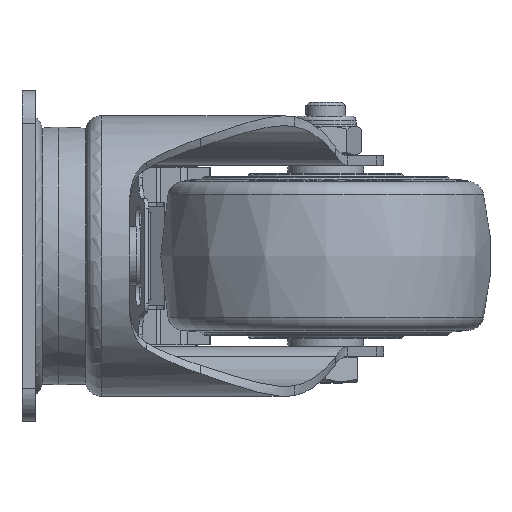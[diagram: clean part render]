
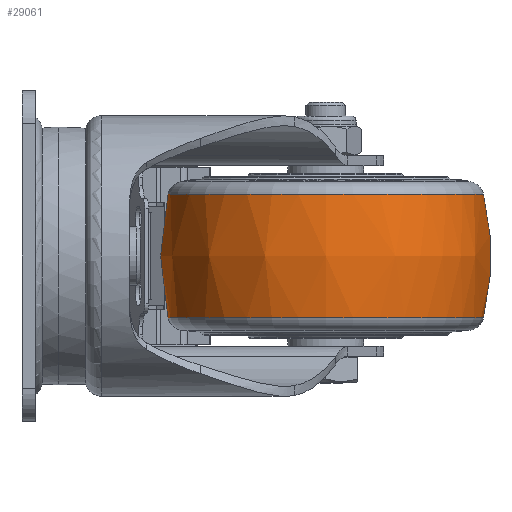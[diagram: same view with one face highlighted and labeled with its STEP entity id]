
A CAD part, left-side view. The second image highlights one B-rep face of the part: STEP entity #29061.
In plain terms, the highlighted free-form (B-spline) face has degree [2, 2] with [3, 9] control points.
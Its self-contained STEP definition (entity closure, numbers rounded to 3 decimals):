
#34=(
BOUNDED_SURFACE()
B_SPLINE_SURFACE(2,2,((#57518,#57519,#57520,#57521,#57522,#57523,#57524,
#57525,#57526),(#57527,#57528,#57529,#57530,#57531,#57532,#57533,#57534,
#57535),(#57536,#57537,#57538,#57539,#57540,#57541,#57542,#57543,#57544)),
 .UNSPECIFIED.,.F.,.T.,.F.)
B_SPLINE_SURFACE_WITH_KNOTS((3,3),(3,2,2,2,3),(-0.236,0.236),
(-3.142,-1.571,0.,1.571,3.142),
 .UNSPECIFIED.)
GEOMETRIC_REPRESENTATION_ITEM()
RATIONAL_B_SPLINE_SURFACE(((1.,0.707,1.,0.707,1.,
0.707,1.,0.707,1.),(0.972,0.687,
0.972,0.687,0.972,0.687,
0.972,0.687,0.972),(1.,0.707,
1.,0.707,1.,0.707,1.,0.707,1.)))
REPRESENTATION_ITEM('')
SURFACE()
);
#7672=FACE_OUTER_BOUND('',#9425,.T.);
#9425=EDGE_LOOP('',(#26912,#26913,#26914,#26915));
#10165=CIRCLE('',#30973,47.779);
#10167=CIRCLE('',#30975,47.779);
#10168=CIRCLE('',#30976,80.);
#13971=VERTEX_POINT('',#57515);
#13972=VERTEX_POINT('',#57545);
#18294=EDGE_CURVE('',#13971,#13971,#10165,.T.);
#18296=EDGE_CURVE('',#13972,#13972,#10167,.T.);
#18297=EDGE_CURVE('',#13972,#13971,#10168,.T.);
#26912=ORIENTED_EDGE('',*,*,#18296,.F.);
#26913=ORIENTED_EDGE('',*,*,#18297,.T.);
#26914=ORIENTED_EDGE('',*,*,#18294,.T.);
#26915=ORIENTED_EDGE('',*,*,#18297,.F.);
#29061=ADVANCED_FACE('',(#7672),#34,.F.);
#30973=AXIS2_PLACEMENT_3D('',#57516,#36904,#36905);
#30975=AXIS2_PLACEMENT_3D('',#57546,#36908,#36909);
#30976=AXIS2_PLACEMENT_3D('',#57547,#36910,#36911);
#36904=DIRECTION('center_axis',(0.,0.,
1.));
#36905=DIRECTION('ref_axis',(0.,1.,0.));
#36908=DIRECTION('center_axis',(0.,0.,
1.));
#36909=DIRECTION('ref_axis',(0.,1.,0.));
#36910=DIRECTION('center_axis',(1.,0.,0.));
#36911=DIRECTION('ref_axis',(0.,-1.,0.));
#57515=CARTESIAN_POINT('',(57.5,-139.78,-18.721));
#57516=CARTESIAN_POINT('Origin',(57.5,-92.001,-18.721));
#57518=CARTESIAN_POINT('Ctrl Pts',(57.5,-139.78,-18.721));
#57519=CARTESIAN_POINT('Ctrl Pts',(105.279,-139.78,-18.721));
#57520=CARTESIAN_POINT('Ctrl Pts',(105.279,-92.001,-18.721));
#57521=CARTESIAN_POINT('Ctrl Pts',(105.279,-44.223,-18.721));
#57522=CARTESIAN_POINT('Ctrl Pts',(57.5,-44.223,-18.721));
#57523=CARTESIAN_POINT('Ctrl Pts',(9.721,-44.223,-18.721));
#57524=CARTESIAN_POINT('Ctrl Pts',(9.721,-92.001,-18.721));
#57525=CARTESIAN_POINT('Ctrl Pts',(9.721,-139.78,-18.721));
#57526=CARTESIAN_POINT('Ctrl Pts',(57.5,-139.78,-18.721));
#57527=CARTESIAN_POINT('Ctrl Pts',(57.5,-144.286,0.));
#57528=CARTESIAN_POINT('Ctrl Pts',(109.785,-144.286,0.));
#57529=CARTESIAN_POINT('Ctrl Pts',(109.785,-92.001,0.));
#57530=CARTESIAN_POINT('Ctrl Pts',(109.785,-39.717,0.));
#57531=CARTESIAN_POINT('Ctrl Pts',(57.5,-39.717,0.));
#57532=CARTESIAN_POINT('Ctrl Pts',(5.215,-39.717,0.));
#57533=CARTESIAN_POINT('Ctrl Pts',(5.215,-92.001,0.));
#57534=CARTESIAN_POINT('Ctrl Pts',(5.215,-144.286,0.));
#57535=CARTESIAN_POINT('Ctrl Pts',(57.5,-144.286,0.));
#57536=CARTESIAN_POINT('Ctrl Pts',(57.5,-139.78,18.721));
#57537=CARTESIAN_POINT('Ctrl Pts',(105.279,-139.78,18.721));
#57538=CARTESIAN_POINT('Ctrl Pts',(105.279,-92.001,18.721));
#57539=CARTESIAN_POINT('Ctrl Pts',(105.279,-44.223,18.721));
#57540=CARTESIAN_POINT('Ctrl Pts',(57.5,-44.223,18.721));
#57541=CARTESIAN_POINT('Ctrl Pts',(9.721,-44.223,18.721));
#57542=CARTESIAN_POINT('Ctrl Pts',(9.721,-92.001,18.721));
#57543=CARTESIAN_POINT('Ctrl Pts',(9.721,-139.78,18.721));
#57544=CARTESIAN_POINT('Ctrl Pts',(57.5,-139.78,18.721));
#57545=CARTESIAN_POINT('',(57.5,-139.78,18.721));
#57546=CARTESIAN_POINT('Origin',(57.5,-92.001,18.721));
#57547=CARTESIAN_POINT('Origin',(57.5,-62.001,0.));
